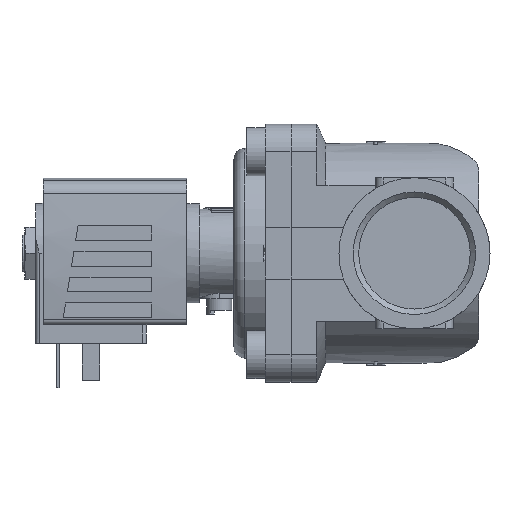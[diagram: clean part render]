
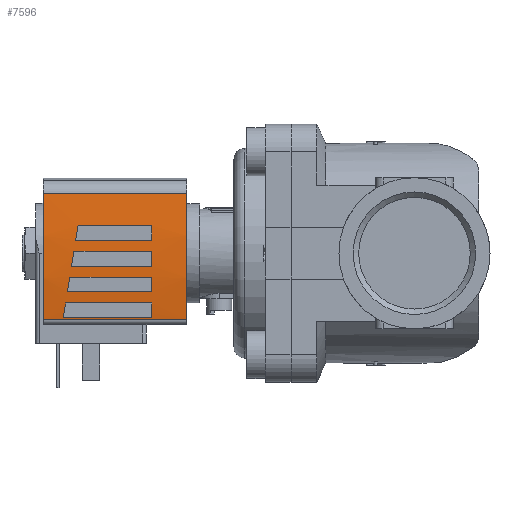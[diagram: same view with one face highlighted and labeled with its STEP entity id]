
A CAD part, left-side view. The second image highlights one B-rep face of the part: STEP entity #7596.
In plain terms, the highlighted cylindrical face has radius 130 mm (diameter 260 mm), a partial arc.
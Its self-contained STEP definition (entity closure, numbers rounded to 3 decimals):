
#78=ELLIPSE('',#8189,131.653,130.);
#79=ELLIPSE('',#8191,131.653,130.);
#80=ELLIPSE('',#8194,131.653,130.);
#81=ELLIPSE('',#8196,131.653,130.);
#234=CYLINDRICAL_SURFACE('',#8188,130.);
#712=LINE('',#11852,#1298);
#714=LINE('',#11872,#1300);
#715=LINE('',#11876,#1301);
#716=LINE('',#11877,#1302);
#717=LINE('',#11882,#1303);
#718=LINE('',#11887,#1304);
#719=LINE('',#11891,#1305);
#720=LINE('',#11895,#1306);
#721=LINE('',#11899,#1307);
#722=LINE('',#11903,#1308);
#1298=VECTOR('',#9738,1000.);
#1300=VECTOR('',#9760,1000.);
#1301=VECTOR('',#9763,1000.);
#1302=VECTOR('',#9764,1000.);
#1303=VECTOR('',#9767,1000.);
#1304=VECTOR('',#9772,1000.);
#1305=VECTOR('',#9775,1000.);
#1306=VECTOR('',#9778,1000.);
#1307=VECTOR('',#9781,1000.);
#1308=VECTOR('',#9784,1000.);
#2858=ORIENTED_EDGE('',*,*,#3983,.F.);
#2859=ORIENTED_EDGE('',*,*,#3984,.F.);
#2860=ORIENTED_EDGE('',*,*,#3985,.F.);
#2861=ORIENTED_EDGE('',*,*,#3986,.F.);
#2862=ORIENTED_EDGE('',*,*,#3987,.F.);
#2863=ORIENTED_EDGE('',*,*,#3988,.F.);
#2864=ORIENTED_EDGE('',*,*,#3989,.F.);
#2865=ORIENTED_EDGE('',*,*,#3990,.F.);
#2866=ORIENTED_EDGE('',*,*,#3991,.T.);
#2867=ORIENTED_EDGE('',*,*,#3992,.F.);
#2868=ORIENTED_EDGE('',*,*,#3977,.F.);
#2869=ORIENTED_EDGE('',*,*,#3974,.T.);
#2870=ORIENTED_EDGE('',*,*,#3993,.F.);
#2871=ORIENTED_EDGE('',*,*,#3994,.F.);
#2872=ORIENTED_EDGE('',*,*,#3995,.F.);
#2873=ORIENTED_EDGE('',*,*,#3996,.F.);
#2874=ORIENTED_EDGE('',*,*,#3997,.F.);
#2875=ORIENTED_EDGE('',*,*,#3998,.F.);
#2876=ORIENTED_EDGE('',*,*,#3999,.F.);
#2877=ORIENTED_EDGE('',*,*,#4000,.F.);
#3974=EDGE_CURVE('',#4655,#4654,#712,.T.);
#3977=EDGE_CURVE('',#4655,#4657,#4949,.T.);
#3983=EDGE_CURVE('',#4661,#4662,#78,.T.);
#3984=EDGE_CURVE('',#4663,#4661,#714,.F.);
#3985=EDGE_CURVE('',#4664,#4663,#4954,.T.);
#3986=EDGE_CURVE('',#4662,#4664,#715,.T.);
#3987=EDGE_CURVE('',#4665,#4666,#716,.T.);
#3988=EDGE_CURVE('',#4667,#4665,#79,.T.);
#3989=EDGE_CURVE('',#4668,#4667,#717,.F.);
#3990=EDGE_CURVE('',#4666,#4668,#4955,.T.);
#3991=EDGE_CURVE('',#4654,#4669,#4956,.T.);
#3992=EDGE_CURVE('',#4657,#4669,#718,.T.);
#3993=EDGE_CURVE('',#4670,#4671,#80,.T.);
#3994=EDGE_CURVE('',#4672,#4670,#719,.F.);
#3995=EDGE_CURVE('',#4673,#4672,#4957,.T.);
#3996=EDGE_CURVE('',#4671,#4673,#720,.T.);
#3997=EDGE_CURVE('',#4674,#4675,#81,.T.);
#3998=EDGE_CURVE('',#4676,#4674,#721,.F.);
#3999=EDGE_CURVE('',#4677,#4676,#4958,.T.);
#4000=EDGE_CURVE('',#4675,#4677,#722,.T.);
#4654=VERTEX_POINT('',#11851);
#4655=VERTEX_POINT('',#11853);
#4657=VERTEX_POINT('',#11859);
#4661=VERTEX_POINT('',#11870);
#4662=VERTEX_POINT('',#11871);
#4663=VERTEX_POINT('',#11873);
#4664=VERTEX_POINT('',#11875);
#4665=VERTEX_POINT('',#11878);
#4666=VERTEX_POINT('',#11879);
#4667=VERTEX_POINT('',#11881);
#4668=VERTEX_POINT('',#11883);
#4669=VERTEX_POINT('',#11886);
#4670=VERTEX_POINT('',#11889);
#4671=VERTEX_POINT('',#11890);
#4672=VERTEX_POINT('',#11892);
#4673=VERTEX_POINT('',#11894);
#4674=VERTEX_POINT('',#11897);
#4675=VERTEX_POINT('',#11898);
#4676=VERTEX_POINT('',#11900);
#4677=VERTEX_POINT('',#11902);
#4949=CIRCLE('',#8183,130.);
#4954=CIRCLE('',#8190,130.);
#4955=CIRCLE('',#8192,130.);
#4956=CIRCLE('',#8193,130.);
#4957=CIRCLE('',#8195,130.);
#4958=CIRCLE('',#8197,130.);
#5279=EDGE_LOOP('',(#2858,#2859,#2860,#2861));
#5280=EDGE_LOOP('',(#2862,#2863,#2864,#2865));
#5281=EDGE_LOOP('',(#2866,#2867,#2868,#2869));
#5282=EDGE_LOOP('',(#2870,#2871,#2872,#2873));
#5283=EDGE_LOOP('',(#2874,#2875,#2876,#2877));
#5678=FACE_BOUND('',#5279,.T.);
#5679=FACE_BOUND('',#5280,.T.);
#5680=FACE_BOUND('',#5281,.T.);
#5681=FACE_BOUND('',#5282,.T.);
#5682=FACE_BOUND('',#5283,.T.);
#7596=ADVANCED_FACE('',(#5678,#5679,#5680,#5681,#5682),#234,.T.);
#8183=AXIS2_PLACEMENT_3D('',#11858,#9745,#9746);
#8188=AXIS2_PLACEMENT_3D('',#11868,#9756,#9757);
#8189=AXIS2_PLACEMENT_3D('',#11869,#9758,#9759);
#8190=AXIS2_PLACEMENT_3D('',#11874,#9761,#9762);
#8191=AXIS2_PLACEMENT_3D('',#11880,#9765,#9766);
#8192=AXIS2_PLACEMENT_3D('',#11884,#9768,#9769);
#8193=AXIS2_PLACEMENT_3D('',#11885,#9770,#9771);
#8194=AXIS2_PLACEMENT_3D('',#11888,#9773,#9774);
#8195=AXIS2_PLACEMENT_3D('',#11893,#9776,#9777);
#8196=AXIS2_PLACEMENT_3D('',#11896,#9779,#9780);
#8197=AXIS2_PLACEMENT_3D('',#11901,#9782,#9783);
#9738=DIRECTION('',(0.,-1.,0.));
#9745=DIRECTION('',(0.,1.,0.));
#9746=DIRECTION('',(1.,0.,0.));
#9756=DIRECTION('',(0.,-1.,0.));
#9757=DIRECTION('',(0.,0.,-1.));
#9758=DIRECTION('',(-0.158,-0.987,0.));
#9759=DIRECTION('',(0.987,-0.158,0.));
#9760=DIRECTION('',(0.,-1.,0.));
#9761=DIRECTION('',(0.,1.,0.));
#9762=DIRECTION('',(0.,0.,1.));
#9763=DIRECTION('',(0.,-1.,0.));
#9764=DIRECTION('',(0.,-1.,0.));
#9765=DIRECTION('',(-0.158,-0.987,0.));
#9766=DIRECTION('',(0.987,-0.158,0.));
#9767=DIRECTION('',(0.,-1.,0.));
#9768=DIRECTION('',(0.,1.,0.));
#9769=DIRECTION('',(0.,0.,1.));
#9770=DIRECTION('',(0.,1.,0.));
#9771=DIRECTION('',(1.,0.,0.));
#9772=DIRECTION('',(0.,-1.,0.));
#9773=DIRECTION('',(-0.158,-0.987,0.));
#9774=DIRECTION('',(0.987,-0.158,0.));
#9775=DIRECTION('',(0.,-1.,0.));
#9776=DIRECTION('',(0.,1.,0.));
#9777=DIRECTION('',(0.,0.,1.));
#9778=DIRECTION('',(0.,-1.,0.));
#9779=DIRECTION('',(-0.158,-0.987,0.));
#9780=DIRECTION('',(0.987,-0.158,0.));
#9781=DIRECTION('',(0.,-1.,0.));
#9782=DIRECTION('',(0.,1.,0.));
#9783=DIRECTION('',(0.,0.,1.));
#9784=DIRECTION('',(0.,-1.,0.));
#11851=CARTESIAN_POINT('',(-18.071,-26.,14.738));
#11852=CARTESIAN_POINT('',(-18.071,13.,14.738));
#11853=CARTESIAN_POINT('',(-18.071,13.,14.738));
#11858=CARTESIAN_POINT('',(0.,13.,-114.));
#11859=CARTESIAN_POINT('',(16.195,13.,14.987));
#11868=CARTESIAN_POINT('',(0.,13.,-114.));
#11869=CARTESIAN_POINT('',(0.,4.7,-114.));
#11870=CARTESIAN_POINT('',(0.5,4.62,15.999));
#11871=CARTESIAN_POINT('',(-3.5,5.26,15.953));
#11872=CARTESIAN_POINT('',(0.5,13.,15.999));
#11873=CARTESIAN_POINT('',(0.5,-16.5,15.999));
#11874=CARTESIAN_POINT('',(0.,-16.5,-114.));
#11875=CARTESIAN_POINT('',(-3.5,-16.5,15.953));
#11876=CARTESIAN_POINT('',(-3.5,13.,15.953));
#11877=CARTESIAN_POINT('',(-17.5,13.,14.817));
#11878=CARTESIAN_POINT('',(-17.5,7.5,14.817));
#11879=CARTESIAN_POINT('',(-17.5,-16.5,14.817));
#11880=CARTESIAN_POINT('',(0.,4.7,-114.));
#11881=CARTESIAN_POINT('',(-13.5,6.86,15.297));
#11882=CARTESIAN_POINT('',(-13.5,13.,15.297));
#11883=CARTESIAN_POINT('',(-13.5,-16.5,15.297));
#11884=CARTESIAN_POINT('',(0.,-16.5,-114.));
#11885=CARTESIAN_POINT('',(0.,-26.,-114.));
#11886=CARTESIAN_POINT('',(16.195,-26.,14.987));
#11887=CARTESIAN_POINT('',(16.195,13.,14.987));
#11888=CARTESIAN_POINT('',(0.,4.7,-114.));
#11889=CARTESIAN_POINT('',(-6.5,5.74,15.837));
#11890=CARTESIAN_POINT('',(-10.5,6.38,15.575));
#11891=CARTESIAN_POINT('',(-6.5,13.,15.837));
#11892=CARTESIAN_POINT('',(-6.5,-16.5,15.837));
#11893=CARTESIAN_POINT('',(0.,-16.5,-114.));
#11894=CARTESIAN_POINT('',(-10.5,-16.5,15.575));
#11895=CARTESIAN_POINT('',(-10.5,13.,15.575));
#11896=CARTESIAN_POINT('',(0.,4.7,-114.));
#11897=CARTESIAN_POINT('',(7.5,3.5,15.783));
#11898=CARTESIAN_POINT('',(3.5,4.14,15.953));
#11899=CARTESIAN_POINT('',(7.5,13.,15.783));
#11900=CARTESIAN_POINT('',(7.5,-16.5,15.783));
#11901=CARTESIAN_POINT('',(0.,-16.5,-114.));
#11902=CARTESIAN_POINT('',(3.5,-16.5,15.953));
#11903=CARTESIAN_POINT('',(3.5,13.,15.953));
